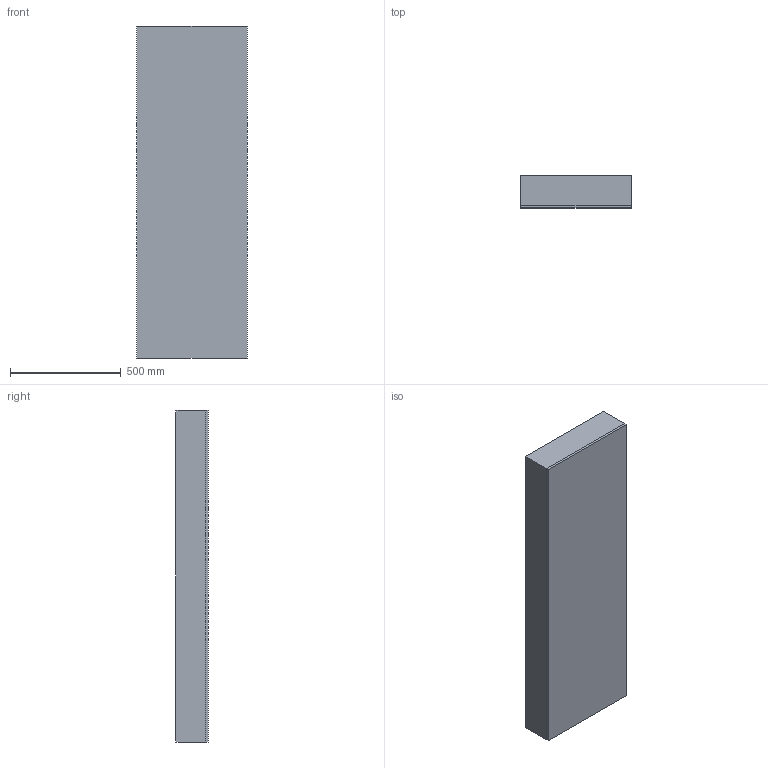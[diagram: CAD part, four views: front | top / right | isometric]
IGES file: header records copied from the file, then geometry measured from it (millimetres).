
Global section: file name: \\Archi-NAS\Comune\X GIOVANNI\SPECCHI\MIRR REVERSE\MIRR REVERSE_VERTICAL.igs; native system: Rhinoceros ( Feb 23 2021 ); preprocessor: Trout Lake IGES 012 Feb 23 2021; date: 230608.080224; units: millimetre
Bounding box: 500 x 145 x 1500 mm (x, y, z)
Surface area: 4660256 mm2 (no closed solid volume)
Topology: 0 solids, 0 shells, 46 faces, 212 edges, 212 vertices
Faces by surface type: bspline 46
